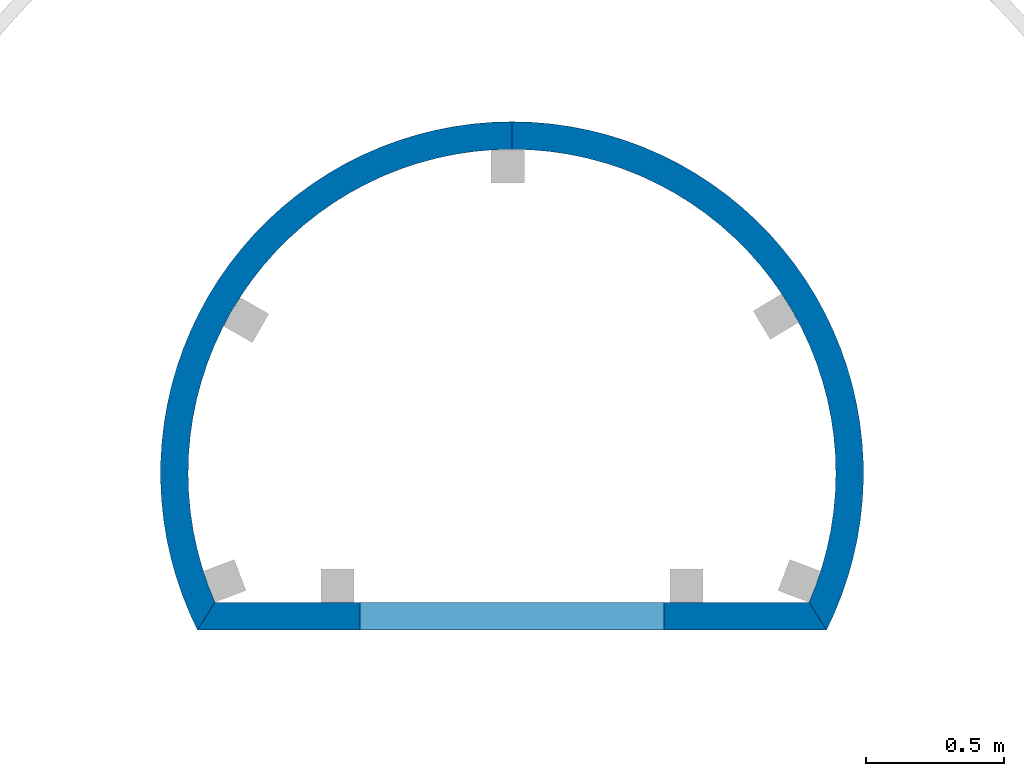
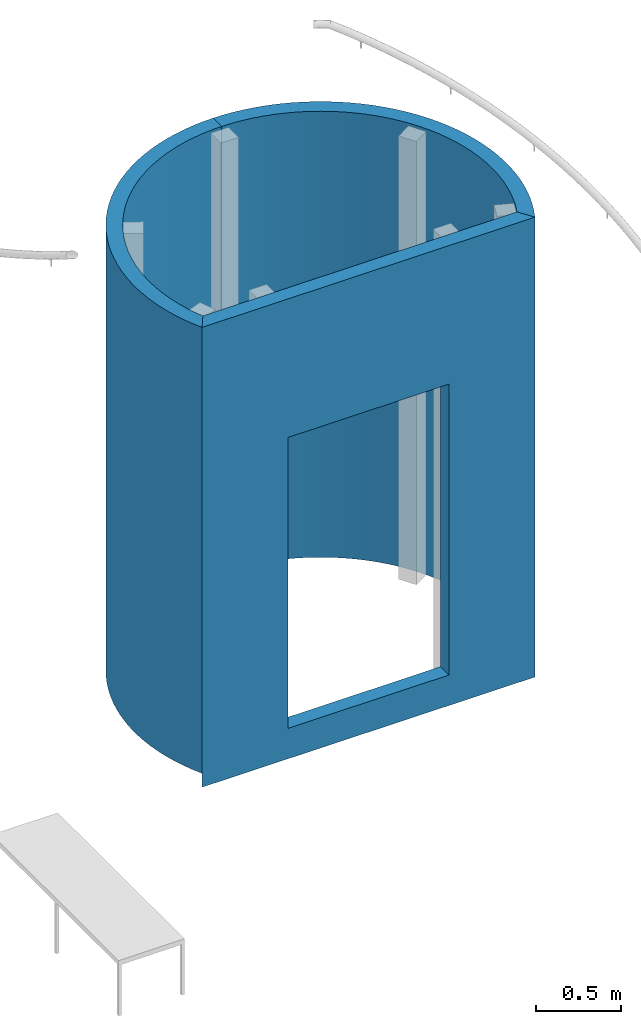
# One storey, part 2 of 9: 3 walls, 1 opening.
"""IFC4 building model written with IfcOpenShell, lengths in millimetres."""

from ifc_helpers import new_model, entity, si_unit, converted_unit, derived_unit, direction, frame, origin_with_axes, origin_2d_with_axis, place, context, subcontext, project, spatial, line, arc, indexed_curve, rectangle, outline, extrude, material, layer, layer_set, layer_usage, type_object, element, save


model = new_model("IFC4")

# Units and contexts
model_context = context("Model", 3, precision=0.01, world=origin_with_axes(), true_north=direction((0.0, 1.0)))
body_context = subcontext(model_context, "Body", "Model", "MODEL_VIEW")
ifc_project = project(units=[si_unit("LENGTHUNIT", "METRE", prefix="MILLI"), si_unit("AREAUNIT", "SQUARE_METRE"), si_unit("VOLUMEUNIT", "CUBIC_METRE"), converted_unit("PLANEANGLEUNIT", "DEGREE", entity("IfcPlaneAngleMeasure", 0.0174532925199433), si_unit("PLANEANGLEUNIT", "RADIAN"), dimensions=[0, 0, 0, 0, 0, 0, 0]), converted_unit("TIMEUNIT", "Year", entity("IfcTimeMeasure", 31557600.0), si_unit("TIMEUNIT", "SECOND"), dimensions=[0, 0, 1, 0, 0, 0, 0]), si_unit("MASSUNIT", "GRAM", prefix="KILO"), si_unit("THERMODYNAMICTEMPERATUREUNIT", "DEGREE_CELSIUS"), si_unit("LUMINOUSINTENSITYUNIT", "LUMEN"), si_unit("ENERGYUNIT", "JOULE", prefix="MEGA"), derived_unit("THERMALCONDUCTANCEUNIT", [(si_unit("POWERUNIT", "WATT"), 1), (si_unit("LENGTHUNIT", "METRE"), -1), (si_unit("THERMODYNAMICTEMPERATUREUNIT", "KELVIN"), -1)]), derived_unit("SPECIFICHEATCAPACITYUNIT", [(si_unit("ENERGYUNIT", "JOULE"), 1), (si_unit("MASSUNIT", "GRAM", prefix="KILO"), -1), (si_unit("THERMODYNAMICTEMPERATUREUNIT", "KELVIN"), -1)]), derived_unit("MASSDENSITYUNIT", [(si_unit("MASSUNIT", "GRAM", prefix="KILO"), 1), (si_unit("VOLUMEUNIT", "CUBIC_METRE"), -1)])], contexts=[model_context])

# Site, building, storey
site_placement = place(None, origin_with_axes())
site = spatial("IfcSite", under=ifc_project, at=site_placement, Name="Exteriér", CompositionType="ELEMENT")
building_placement = place(site_placement, origin_with_axes())
building = spatial("IfcBuilding", under=site, at=building_placement, Name="Univerzitní lezecké centrum", CompositionType="ELEMENT")
storey_placement = place(building_placement, frame((0.0, 0.0, 3200.0), z_axis=(0.0, 0.0, 1.0), x_axis=(1.0, 0.0, 0.0)))
storey = spatial("IfcBuildingStorey", under=building, at=storey_placement, Name="2.NP", CompositionType="ELEMENT", Elevation=3200.0)

# Wall
ifc_material = material(Name="Sklo")
ifc_layer = layer(ifc_material, 100.0, ventilated="UNKNOWN", Name="Sklo")
ifc_layer_set = layer_set([ifc_layer], Name="Sklo 100")
ifc_layer_usage_1 = layer_usage(ifc_layer_set, "AXIS2", "NEGATIVE", 100.0)
wall_type = type_object("IfcWallType", Name="Sklo 100", PredefinedType="NOTDEFINED")
wall_1_placement = place(storey_placement, frame((2449.851648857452, 4969.999999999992, -120.000000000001), z_axis=(0.0, 0.0, 1.0), x_axis=(-1.0, 0.0, 0.0)))
element("IfcWall", 1, at=wall_1_placement, inside=storey, type_object=wall_type, material=ifc_layer_usage_1, Name="Z056", PredefinedType="NOTDEFINED", context=body_context, shape_type="SweptSolid", body=[
    extrude(outline(indexed_curve([(0.0, 0.0), (1079.911592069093, 601.6505754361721), (1136.62723014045, 1836.549679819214), (1072.9542235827, 1736.550355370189), (978.4589709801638, 628.5032797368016), (0.0, 99.99999999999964)], segments=[arc(1, 2, 3), line(3, 4), arc(4, 5, 6), line(6, 1)])), origin_with_axes(), (0.0, 0.0, 1.0), 3219.999999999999),
])

# Wall, opening
ifc_layer_usage_2 = layer_usage(ifc_layer_set, "AXIS2", "NEGATIVE", 100.0)
wall_2_placement = place(storey_placement, frame((1313.224418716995, 3133.450320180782, -220.0000000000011), z_axis=(0.0, 0.0, 1.0), x_axis=(0.9999999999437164, -1.060978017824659e-05, 0.0)))
wall_2 = element("IfcWall", 2, at=wall_2_placement, inside=storey, type_object=wall_type, material=ifc_layer_usage_2, Name="Z053", PredefinedType="NOTDEFINED", context=body_context, shape_type="SweptSolid", body=[
    extrude(outline(indexed_curve([(0.0, 0.0), (2273.24243821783, 0.0), (2209.570492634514, 99.99999999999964), (63.67194558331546, 100.0000000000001)], segments=[line(1, 2, 3, 4, 1)])), origin_with_axes(), (0.0, 0.0, 1.0), 3320.0),
])
opening_placement = place(wall_2_placement, frame((1136.609979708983, 0.0, 220.0000000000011), z_axis=(0.0, 0.0, 1.0), x_axis=(1.0, 0.0, 0.0)))
element("IfcOpeningElement", 3, at=opening_placement, cuts=wall_2, context=body_context, shape_type="SweptSolid", body=[
    extrude(rectangle(XDim=1097.999999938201, YDim=2100.0, at=origin_2d_with_axis()), frame((0.0, -100.0000000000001, 1050.0), z_axis=(0.0, -1.0, 0.0), x_axis=(1.0, 0.0, 0.0)), (0.0, 0.0, -1.0), 300.0000000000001),
])

# Wall
ifc_layer_usage_3 = layer_usage(ifc_layer_set, "AXIS2", "NEGATIVE", 100.0)
wall_3_placement = place(storey_placement, frame((3586.466856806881, 3133.426201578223, -120.000000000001), z_axis=(0.0, 0.0, 1.0), x_axis=(0.446121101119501, 0.8949726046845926, 0.0)))
element("IfcWall", 4, at=wall_3_placement, inside=storey, type_object=wall_type, material=ifc_layer_usage_3, Name="Z057", PredefinedType="NOTDEFINED", context=body_context, shape_type="SweptSolid", body=[
    extrude(outline(indexed_curve([(0.0, 0.0), (1079.918683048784, 601.6620330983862), (1136.615207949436, 1836.573798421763), (1047.117947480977, 1791.961688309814), (1010.626929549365, 680.4805268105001), (61.09293991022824, 101.5961089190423)], segments=[arc(1, 2, 3), line(3, 4), arc(4, 5, 6), line(6, 1)])), origin_with_axes(), (0.0, 0.0, 1.0), 3219.999999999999),
])

save(model, "model.ifc")
